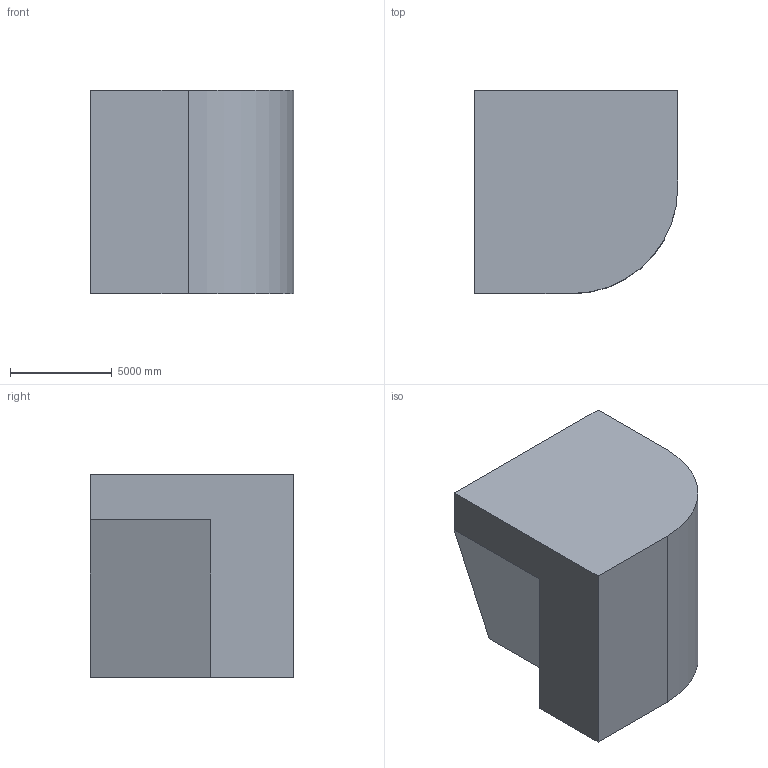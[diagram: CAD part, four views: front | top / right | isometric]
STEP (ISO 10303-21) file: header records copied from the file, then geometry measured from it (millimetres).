
FILE_DESCRIPTION (( 'STEP AP203' ), '1' );
FILE_NAME ('1096.STEP', '2022-08-18T12:44:40', ( 'user' ), ( '' ), 'SwSTEP 2.0', 'SolidWorks 2021', '' );
FILE_SCHEMA (( 'CONFIG_CONTROL_DESIGN' ));
Length unit declared in the file: centimetre
Products named in the file (1): 1096
Bounding box: 10000 x 10000 x 10000 mm (x, y, z)
Volume: 886460314019 mm3; surface area: 554030500.5 mm2
Topology: 1 solids, 1 shells, 9 faces, 21 edges, 14 vertices
Faces by surface type: plane 8, cylinder 1
Entity records: 334 total; most frequent: CARTESIAN_POINT 45, DIRECTION 43, ORIENTED_EDGE 42, EDGE_CURVE 21, VECTOR 19, LINE 19, VERTEX_POINT 14, AXIS2_PLACEMENT_3D 12
